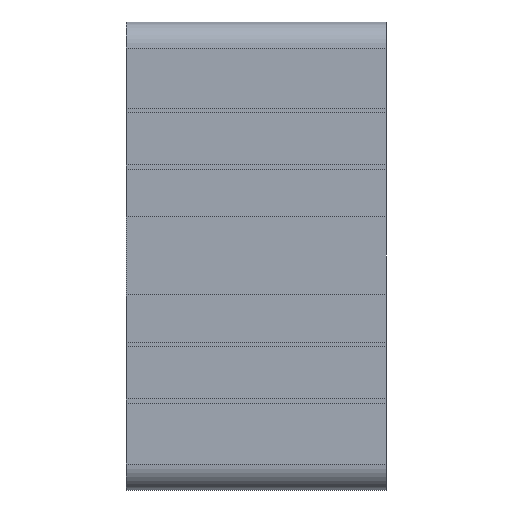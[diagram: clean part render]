
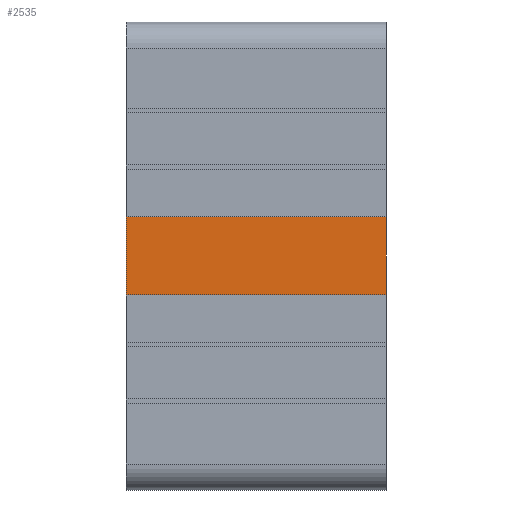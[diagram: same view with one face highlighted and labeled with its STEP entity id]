
A CAD part, front view. The second image highlights one B-rep face of the part: STEP entity #2535.
In plain terms, the highlighted planar face has unit normal (0, -1, 0).
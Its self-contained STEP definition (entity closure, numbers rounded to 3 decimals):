
#2157=VERTEX_POINT('',#5992);
#2535=ADVANCED_FACE('',(#6403),#6404,.T.);
#2591=VERTEX_POINT('',#6467);
#2739=EDGE_CURVE('',#3333,#2157,#6635,.T.);
#3271=EDGE_CURVE('',#2591,#3333,#7212,.T.);
#3333=VERTEX_POINT('',#7277);
#4747=VERTEX_POINT('',#8819);
#5297=EDGE_CURVE('',#4747,#2591,#9413,.T.);
#5609=EDGE_CURVE('',#4747,#2157,#9751,.T.);
#5992=CARTESIAN_POINT('',(50.0,-44.0,7.5));
#6403=FACE_OUTER_BOUND('',#10787,.T.);
#6404=PLANE('',#10788);
#6467=CARTESIAN_POINT('',(0.0,-44.0,-7.5));
#6635=LINE('',#11118,#11119);
#7212=LINE('',#11945,#11946);
#7277=CARTESIAN_POINT('',(50.0,-44.0,-7.5));
#8819=CARTESIAN_POINT('',(0.0,-44.0,7.5));
#9413=LINE('',#15092,#15093);
#9751=LINE('',#15592,#15593);
#10787=EDGE_LOOP('',(#16382,#16383,#16384,#16385));
#10788=AXIS2_PLACEMENT_3D('',#16386,#16387,#16388);
#11118=CARTESIAN_POINT('',(50.0,-44.0,7.5));
#11119=VECTOR('',#16914,1.0);
#11945=CARTESIAN_POINT('',(0.0,-44.0,-7.5));
#11946=VECTOR('',#17459,1.0);
#15092=CARTESIAN_POINT('',(0.0,-44.0,7.5));
#15093=VECTOR('',#19756,1.0);
#15592=CARTESIAN_POINT('',(0.0,-44.0,7.5));
#15593=VECTOR('',#20065,1.0);
#16382=ORIENTED_EDGE('',*,*,#2739,.T.);
#16383=ORIENTED_EDGE('',*,*,#5609,.F.);
#16384=ORIENTED_EDGE('',*,*,#5297,.T.);
#16385=ORIENTED_EDGE('',*,*,#3271,.T.);
#16386=CARTESIAN_POINT('',(0.0,-44.0,-7.5));
#16387=DIRECTION('',(0.0,-1.0,0.0));
#16388=DIRECTION('',(0.0,0.0,-1.0));
#16914=DIRECTION('',(-0.0,0.0,1.0));
#17459=DIRECTION('',(1.0,0.0,0.0));
#19756=DIRECTION('',(0.0,0.0,-1.0));
#20065=DIRECTION('',(1.0,0.0,0.0));
